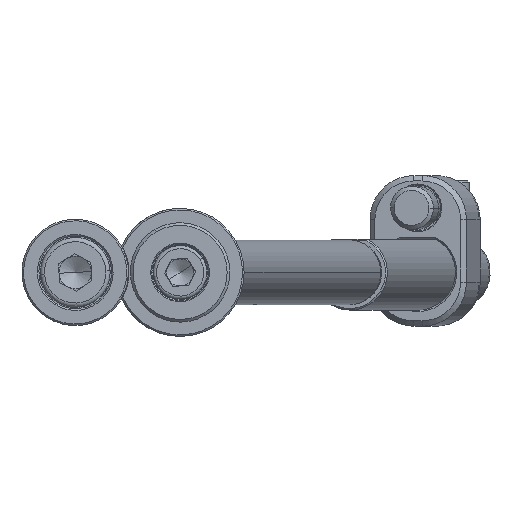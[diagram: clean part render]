
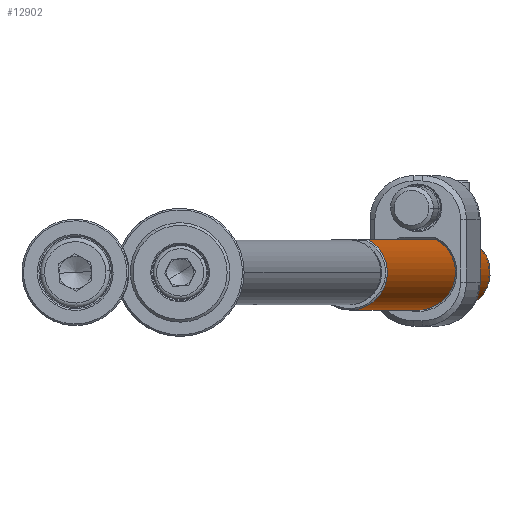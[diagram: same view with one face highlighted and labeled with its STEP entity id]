
A CAD part, front view. The second image highlights one B-rep face of the part: STEP entity #12902.
In plain terms, the highlighted cylindrical face has radius 7 mm (diameter 14 mm), a partial arc.
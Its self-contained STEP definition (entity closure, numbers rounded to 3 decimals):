
#445 = EDGE_CURVE ( 'NONE', #1178, #8816, #14185, .T. ) ;
#577 = VERTEX_POINT ( 'NONE', #10097 ) ;
#605 = DIRECTION ( 'NONE',  ( 1., 0., 0. ) ) ;
#702 = CARTESIAN_POINT ( 'NONE',  ( 6.131, -3.379, 7.796 ) ) ;
#708 = ORIENTED_EDGE ( 'NONE', *, *, #7534, .T. ) ;
#752 = CARTESIAN_POINT ( 'NONE',  ( 6.1, -3.434, 12.052 ) ) ;
#914 = CARTESIAN_POINT ( 'NONE',  ( 6.2, -3.25, 199.7 ) ) ;
#1026 = CARTESIAN_POINT ( 'NONE',  ( 0., 0., 200. ) ) ;
#1069 = AXIS2_PLACEMENT_3D ( 'NONE', #8073, #3947, #2799 ) ;
#1138 = CARTESIAN_POINT ( 'NONE',  ( 6.1, -3.434, 12.052 ) ) ;
#1178 = VERTEX_POINT ( 'NONE', #914 ) ;
#1211 = CARTESIAN_POINT ( 'NONE',  ( -7., 0., 199.7 ) ) ;
#1925 = AXIS2_PLACEMENT_3D ( 'NONE', #8189, #11557, #605 ) ;
#2363 = CARTESIAN_POINT ( 'NONE',  ( 5.745, -4., 10.372 ) ) ;
#2552 = DIRECTION ( 'NONE',  ( 0., 0., -1. ) ) ;
#2799 = DIRECTION ( 'NONE',  ( 1., 0., 0. ) ) ;
#3202 = B_SPLINE_CURVE_WITH_KNOTS ( 'NONE', 3,
 ( #752, #12889, #4858, #8494 ),
 .UNSPECIFIED., .F., .F.,
 ( 4, 4 ),
 ( 0., 0. ),
 .UNSPECIFIED. ) ;
#3340 = ORIENTED_EDGE ( 'NONE', *, *, #4827, .T. ) ;
#3688 = CARTESIAN_POINT ( 'NONE',  ( -7., 0., 200. ) ) ;
#3760 = VECTOR ( 'NONE', #6658, 1000. ) ;
#3947 = DIRECTION ( 'NONE',  ( 0., 0., -1. ) ) ;
#3960 = CARTESIAN_POINT ( 'NONE',  ( 6.2, -3.25, 7.5 ) ) ;
#4067 = CARTESIAN_POINT ( 'NONE',  ( 6.1, -3.434, 7.948 ) ) ;
#4385 = EDGE_CURVE ( 'NONE', #7172, #6477, #4432, .T. ) ;
#4432 = B_SPLINE_CURVE_WITH_KNOTS ( 'NONE', 3,
 ( #1138, #5829, #4612, #7980, #5631, #5780, #2363, #5578, #7901, #11325, #12351, #6739, #4459, #9059 ),
 .UNSPECIFIED., .F., .F.,
 ( 4, 2, 2, 2, 2, 2, 4 ),
 ( 0., 0.001, 0.001, 0.003, 0.004, 0.004, 0.005 ),
 .UNSPECIFIED. ) ;
#4438 = DIRECTION ( 'NONE',  ( 0., 0., -1. ) ) ;
#4459 = CARTESIAN_POINT ( 'NONE',  ( 6.049, -3.524, 8.099 ) ) ;
#4611 = DIRECTION ( 'NONE',  ( 0., 0., -1. ) ) ;
#4612 = CARTESIAN_POINT ( 'NONE',  ( 6.002, -3.604, 11.745 ) ) ;
#4649 = CYLINDRICAL_SURFACE ( 'NONE', #13550, 7. ) ;
#4827 = EDGE_CURVE ( 'NONE', #6460, #6006, #13285, .T. ) ;
#4858 = CARTESIAN_POINT ( 'NONE',  ( 6.164, -3.317, 12.354 ) ) ;
#4898 = ORIENTED_EDGE ( 'NONE', *, *, #11807, .F. ) ;
#5144 = EDGE_CURVE ( 'NONE', #1178, #8524, #13562, .T. ) ;
#5578 = CARTESIAN_POINT ( 'NONE',  ( 5.744, -4., 9.635 ) ) ;
#5631 = CARTESIAN_POINT ( 'NONE',  ( 5.876, -3.804, 11.25 ) ) ;
#5780 = CARTESIAN_POINT ( 'NONE',  ( 5.781, -3.95, 10.729 ) ) ;
#5829 = CARTESIAN_POINT ( 'NONE',  ( 6.049, -3.524, 11.901 ) ) ;
#5933 = VECTOR ( 'NONE', #2552, 1000. ) ;
#6006 = VERTEX_POINT ( 'NONE', #10164 ) ;
#6040 = ORIENTED_EDGE ( 'NONE', *, *, #4385, .F. ) ;
#6088 = LINE ( 'NONE', #3688, #5933 ) ;
#6460 = VERTEX_POINT ( 'NONE', #13651 ) ;
#6477 = VERTEX_POINT ( 'NONE', #4067 ) ;
#6584 = FACE_OUTER_BOUND ( 'NONE', #7447, .T. ) ;
#6658 = DIRECTION ( 'NONE',  ( 0., 0., -1. ) ) ;
#6721 = DIRECTION ( 'NONE',  ( -1., 0., 0. ) ) ;
#6739 = CARTESIAN_POINT ( 'NONE',  ( 6.001, -3.604, 8.256 ) ) ;
#7172 = VERTEX_POINT ( 'NONE', #11669 ) ;
#7288 = CARTESIAN_POINT ( 'NONE',  ( 6.164, -3.317, 7.646 ) ) ;
#7367 = ORIENTED_EDGE ( 'NONE', *, *, #13029, .T. ) ;
#7447 = EDGE_LOOP ( 'NONE', ( #12648, #7367, #3340, #4898, #14010, #6040, #708, #13916 ) ) ;
#7534 = EDGE_CURVE ( 'NONE', #7172, #8816, #3202, .T. ) ;
#7738 = CARTESIAN_POINT ( 'NONE',  ( 6.2, -3.25, 200. ) ) ;
#7901 = CARTESIAN_POINT ( 'NONE',  ( 5.78, -3.95, 9.275 ) ) ;
#7980 = CARTESIAN_POINT ( 'NONE',  ( 5.915, -3.744, 11.42 ) ) ;
#8073 = CARTESIAN_POINT ( 'NONE',  ( 0., 0., 199.7 ) ) ;
#8189 = CARTESIAN_POINT ( 'NONE',  ( 0., 0., 0.3 ) ) ;
#8494 = CARTESIAN_POINT ( 'NONE',  ( 6.2, -3.25, 12.5 ) ) ;
#8524 = VERTEX_POINT ( 'NONE', #1211 ) ;
#8816 = VERTEX_POINT ( 'NONE', #9034 ) ;
#9034 = CARTESIAN_POINT ( 'NONE',  ( 6.2, -3.25, 12.5 ) ) ;
#9059 = CARTESIAN_POINT ( 'NONE',  ( 6.1, -3.434, 7.948 ) ) ;
#9463 = CARTESIAN_POINT ( 'NONE',  ( 6.1, -3.434, 7.948 ) ) ;
#10064 = LINE ( 'NONE', #7738, #3760 ) ;
#10097 = CARTESIAN_POINT ( 'NONE',  ( 6.2, -3.25, 7.5 ) ) ;
#10164 = CARTESIAN_POINT ( 'NONE',  ( 6.2, -3.25, 0.3 ) ) ;
#10610 = VECTOR ( 'NONE', #4611, 1000. ) ;
#10831 = EDGE_CURVE ( 'NONE', #577, #6477, #14031, .T. ) ;
#11325 = CARTESIAN_POINT ( 'NONE',  ( 5.876, -3.805, 8.752 ) ) ;
#11557 = DIRECTION ( 'NONE',  ( 0., 0., 1. ) ) ;
#11669 = CARTESIAN_POINT ( 'NONE',  ( 6.1, -3.434, 12.052 ) ) ;
#11807 = EDGE_CURVE ( 'NONE', #577, #6006, #10064, .T. ) ;
#12350 = CARTESIAN_POINT ( 'NONE',  ( 6.2, -3.25, 200. ) ) ;
#12351 = CARTESIAN_POINT ( 'NONE',  ( 5.915, -3.744, 8.582 ) ) ;
#12648 = ORIENTED_EDGE ( 'NONE', *, *, #5144, .T. ) ;
#12889 = CARTESIAN_POINT ( 'NONE',  ( 6.131, -3.379, 12.204 ) ) ;
#12902 = ADVANCED_FACE ( 'NONE', ( #6584 ), #4649, .T. ) ;
#13029 = EDGE_CURVE ( 'NONE', #8524, #6460, #6088, .T. ) ;
#13285 = CIRCLE ( 'NONE', #1925, 7. ) ;
#13550 = AXIS2_PLACEMENT_3D ( 'NONE', #1026, #4438, #6721 ) ;
#13562 = CIRCLE ( 'NONE', #1069, 7. ) ;
#13651 = CARTESIAN_POINT ( 'NONE',  ( -7., 0., 0.3 ) ) ;
#13916 = ORIENTED_EDGE ( 'NONE', *, *, #445, .F. ) ;
#14010 = ORIENTED_EDGE ( 'NONE', *, *, #10831, .T. ) ;
#14031 = B_SPLINE_CURVE_WITH_KNOTS ( 'NONE', 3,
 ( #3960, #7288, #702, #9463 ),
 .UNSPECIFIED., .F., .F.,
 ( 4, 4 ),
 ( 0., 0. ),
 .UNSPECIFIED. ) ;
#14185 = LINE ( 'NONE', #12350, #10610 ) ;
